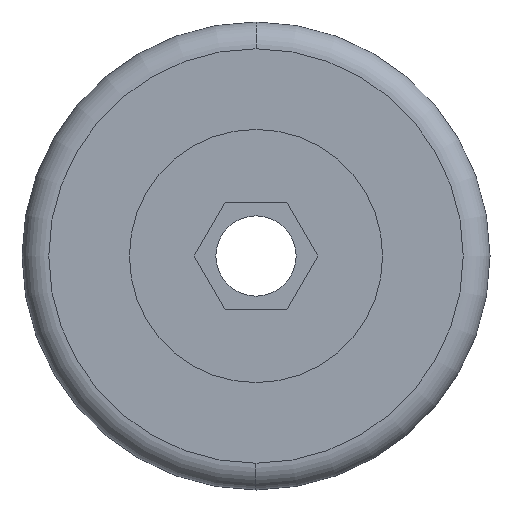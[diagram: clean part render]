
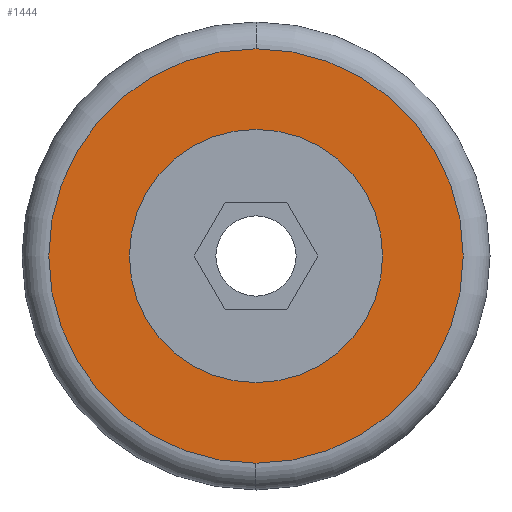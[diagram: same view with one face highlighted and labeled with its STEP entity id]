
A CAD part, left-side view. The second image highlights one B-rep face of the part: STEP entity #1444.
In plain terms, the highlighted planar face has unit normal (-1, 0, 0).
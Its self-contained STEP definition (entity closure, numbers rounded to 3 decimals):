
#5 = DIRECTION ( 'NONE',  ( 0., 0., 1. ) ) ;
#13 = CARTESIAN_POINT ( 'NONE',  ( -25.064, 2.939, -15.5 ) ) ;
#22 = AXIS2_PLACEMENT_3D ( 'NONE', #1371, #80, #779 ) ;
#76 = EDGE_CURVE ( 'NONE', #744, #833, #557, .T. ) ;
#80 = DIRECTION ( 'NONE',  ( -1., 0., 0. ) ) ;
#100 = ORIENTED_EDGE ( 'NONE', *, *, #624, .F. ) ;
#101 = DIRECTION ( 'NONE',  ( -1., 0., 0. ) ) ;
#103 = VERTEX_POINT ( 'NONE', #1464 ) ;
#242 = CIRCLE ( 'NONE', #22, 9.471 ) ;
#248 = ORIENTED_EDGE ( 'NONE', *, *, #76, .T. ) ;
#258 = CARTESIAN_POINT ( 'NONE',  ( -25.064, 2.939, 0. ) ) ;
#333 = ORIENTED_EDGE ( 'NONE', *, *, #855, .T. ) ;
#368 = DIRECTION ( 'NONE',  ( 0., 0., 1. ) ) ;
#405 = CARTESIAN_POINT ( 'NONE',  ( -25.064, 2.939, -9.471 ) ) ;
#556 = AXIS2_PLACEMENT_3D ( 'NONE', #1427, #716, #5 ) ;
#557 = CIRCLE ( 'NONE', #816, 15.5 ) ;
#561 = FACE_BOUND ( 'NONE', #1302, .T. ) ;
#624 = EDGE_CURVE ( 'NONE', #745, #103, #242, .T. ) ;
#716 = DIRECTION ( 'NONE',  ( -1., 0., 0. ) ) ;
#744 = VERTEX_POINT ( 'NONE', #13 ) ;
#745 = VERTEX_POINT ( 'NONE', #405 ) ;
#779 = DIRECTION ( 'NONE',  ( 0., 0., 1. ) ) ;
#801 = CARTESIAN_POINT ( 'NONE',  ( -25.064, 2.939, 0. ) ) ;
#816 = AXIS2_PLACEMENT_3D ( 'NONE', #258, #951, #1457 ) ;
#818 = PLANE ( 'NONE',  #1351 ) ;
#833 = VERTEX_POINT ( 'NONE', #1413 ) ;
#855 = EDGE_CURVE ( 'NONE', #833, #744, #1472, .T. ) ;
#920 = DIRECTION ( 'NONE',  ( 0., 0., 1. ) ) ;
#943 = CARTESIAN_POINT ( 'NONE',  ( -25.064, 20.439, 0. ) ) ;
#951 = DIRECTION ( 'NONE',  ( -1., 0., 0. ) ) ;
#1022 = CIRCLE ( 'NONE', #1378, 9.471 ) ;
#1060 = DIRECTION ( 'NONE',  ( -1., 0., 0. ) ) ;
#1262 = EDGE_CURVE ( 'NONE', #103, #745, #1022, .T. ) ;
#1266 = EDGE_LOOP ( 'NONE', ( #333, #248 ) ) ;
#1302 = EDGE_LOOP ( 'NONE', ( #100, #1448 ) ) ;
#1351 = AXIS2_PLACEMENT_3D ( 'NONE', #943, #1060, #368 ) ;
#1371 = CARTESIAN_POINT ( 'NONE',  ( -25.064, 2.939, 0. ) ) ;
#1378 = AXIS2_PLACEMENT_3D ( 'NONE', #801, #101, #920 ) ;
#1413 = CARTESIAN_POINT ( 'NONE',  ( -25.064, 2.939, 15.5 ) ) ;
#1427 = CARTESIAN_POINT ( 'NONE',  ( -25.064, 2.939, 0. ) ) ;
#1444 = ADVANCED_FACE ( 'NONE', ( #1463, #561 ), #818, .T. ) ;
#1448 = ORIENTED_EDGE ( 'NONE', *, *, #1262, .F. ) ;
#1457 = DIRECTION ( 'NONE',  ( 0., 0., 1. ) ) ;
#1463 = FACE_OUTER_BOUND ( 'NONE', #1266, .T. ) ;
#1464 = CARTESIAN_POINT ( 'NONE',  ( -25.064, 2.939, 9.471 ) ) ;
#1472 = CIRCLE ( 'NONE', #556, 15.5 ) ;
